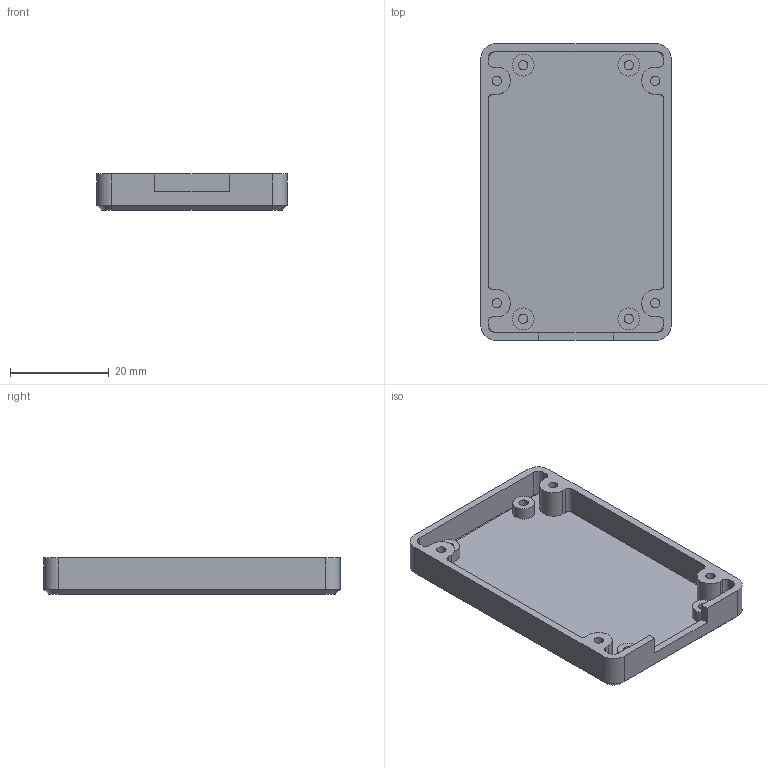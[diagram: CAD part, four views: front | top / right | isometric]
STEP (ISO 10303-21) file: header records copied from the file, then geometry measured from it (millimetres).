
FILE_DESCRIPTION (( 'STEP AP214' ), '1' );
FILE_NAME ('Bottom_Enclosure.STEP', '2025-10-12T00:55:41', ( '' ), ( '' ), 'SwSTEP 2.0', 'SolidWorks 2025', '' );
FILE_SCHEMA (( 'AUTOMOTIVE_DESIGN' ));
Length unit declared in the file: millimetre
Products named in the file (1): Bottom_Enclosure
Bounding box: 38.5 x 60 x 7.29 mm (x, y, z)
Volume: 5464.7 mm3; surface area: 7320.2 mm2
Topology: 1 solids, 1 shells, 104 faces, 254 edges, 164 vertices
Faces by surface type: plane 50, cylinder 46, cone 8
Entity records: 3093 total; most frequent: DIRECTION 556, CARTESIAN_POINT 547, ORIENTED_EDGE 508, EDGE_CURVE 254, AXIS2_PLACEMENT_3D 205, VERTEX_POINT 164, LINE 146, VECTOR 146
